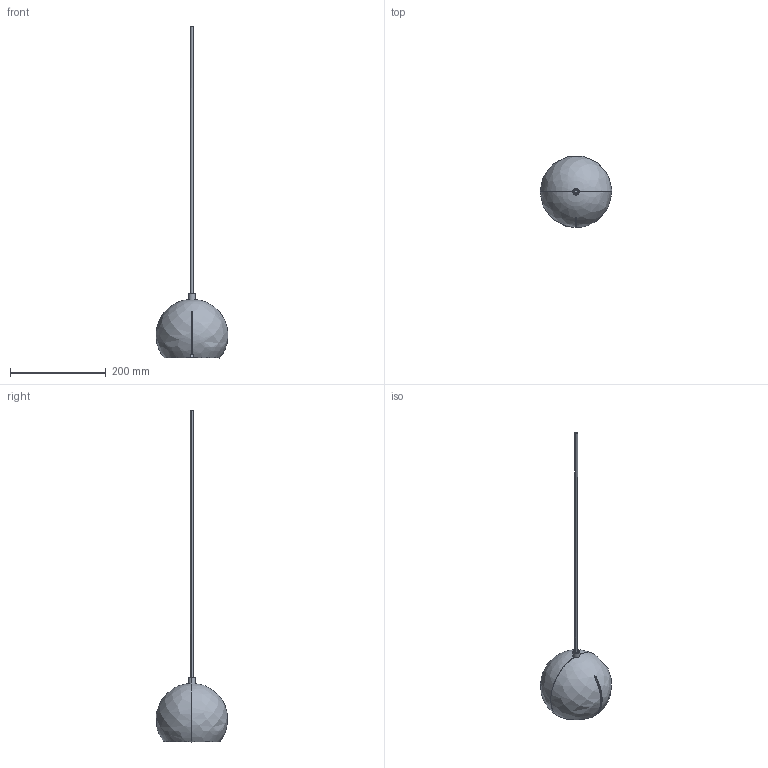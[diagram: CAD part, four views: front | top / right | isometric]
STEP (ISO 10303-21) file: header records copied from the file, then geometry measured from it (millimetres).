
FILE_DESCRIPTION(/* description */ (''),/* implementation_level */ '2;1');
FILE_NAME(/* name */ 'Gap pendant round',/* time_stamp */ '2020-03-18T13:08:54+01:00',/* author */ (''),/* organization */ (''),/* preprocessor_version */ 'ST-DEVELOPER v15',/* originating_system */ '',/* authorisation */ '');
FILE_SCHEMA (('AUTOMOTIVE_DESIGN'));
Length unit declared in the file: millimetre
Products named in the file (1): Document
Bounding box: 150 x 148.69 x 693.66 mm (x, y, z)
Surface area: 124500.8 mm2 (no closed solid volume)
Topology: 0 solids, 30 shells, 33 faces, 98 edges, 92 vertices
Faces by surface type: bspline 33
Entity records: 4397 total; most frequent: CARTESIAN_POINT 3186, B_SPLINE_CURVE_WITH_KNOTS 146, ORIENTED_EDGE 104, PCURVE 104, DEFINITIONAL_REPRESENTATION 104, SURFACE_CURVE 98, EDGE_CURVE 98, VERTEX_POINT 92
